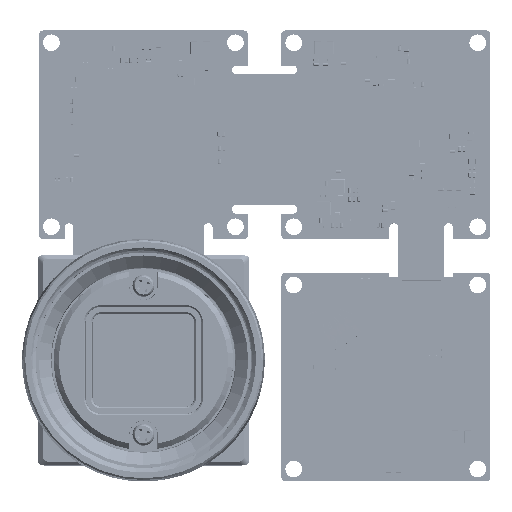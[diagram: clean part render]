
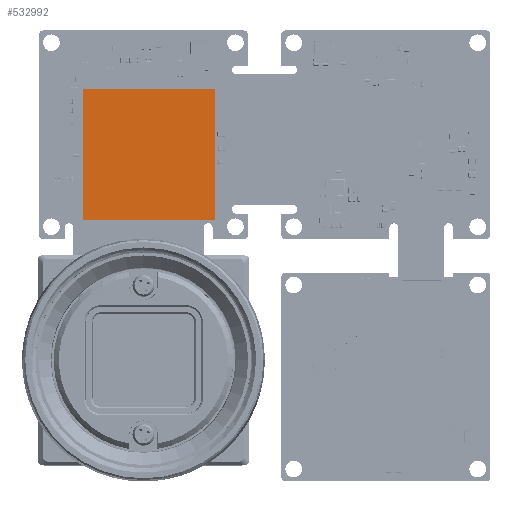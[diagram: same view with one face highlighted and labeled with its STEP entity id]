
A CAD part, top view. The second image highlights one B-rep face of the part: STEP entity #532992.
In plain terms, the highlighted planar face has unit normal (0, 0, 1).
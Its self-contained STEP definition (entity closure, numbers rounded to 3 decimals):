
#21036 = CARTESIAN_POINT ( 'NONE',  ( 8.16, 15.999, -0.75 ) ) ;
#66316 = CARTESIAN_POINT ( 'NONE',  ( -6.84, 30.999, -0.75 ) ) ;
#87046 = LINE ( 'NONE', #250304, #156075 ) ;
#87837 = VECTOR ( 'NONE', #516733, 1000. ) ;
#88732 = CARTESIAN_POINT ( 'NONE',  ( 8.16, 30.999, -0.75 ) ) ;
#92803 = EDGE_CURVE ( 'NONE', #147127, #311809, #348524, .T. ) ;
#97193 = PLANE ( 'NONE',  #534380 ) ;
#97307 = EDGE_LOOP ( 'NONE', ( #597156, #629134, #210142, #210082 ) ) ;
#147127 = VERTEX_POINT ( 'NONE', #474945 ) ;
#156075 = VECTOR ( 'NONE', #258708, 1000. ) ;
#168576 = VECTOR ( 'NONE', #555271, 1000. ) ;
#175540 = VERTEX_POINT ( 'NONE', #88732 ) ;
#197942 = CARTESIAN_POINT ( 'NONE',  ( 8.16, 30.999, -0.75 ) ) ;
#210082 = ORIENTED_EDGE ( 'NONE', *, *, #629654, .T. ) ;
#210142 = ORIENTED_EDGE ( 'NONE', *, *, #92803, .T. ) ;
#245426 = EDGE_CURVE ( 'NONE', #175540, #450920, #336816, .T. ) ;
#250304 = CARTESIAN_POINT ( 'NONE',  ( 8.16, 15.999, -0.75 ) ) ;
#258708 = DIRECTION ( 'NONE',  ( 0., 1., 0. ) ) ;
#261352 = DIRECTION ( 'NONE',  ( 0., -1., 0. ) ) ;
#290130 = DIRECTION ( 'NONE',  ( 0., -1., 0. ) ) ;
#292226 = CARTESIAN_POINT ( 'NONE',  ( 8.16, 15.999, -0.75 ) ) ;
#311809 = VERTEX_POINT ( 'NONE', #21036 ) ;
#336816 = LINE ( 'NONE', #197942, #168576 ) ;
#348524 = LINE ( 'NONE', #615202, #87837 ) ;
#353288 = CARTESIAN_POINT ( 'NONE',  ( -6.84, 30.999, -0.75 ) ) ;
#357492 = VECTOR ( 'NONE', #261352, 1000. ) ;
#450920 = VERTEX_POINT ( 'NONE', #353288 ) ;
#474945 = CARTESIAN_POINT ( 'NONE',  ( -6.84, 15.999, -0.75 ) ) ;
#492175 = FACE_OUTER_BOUND ( 'NONE', #97307, .T. ) ;
#503096 = LINE ( 'NONE', #66316, #357492 ) ;
#516733 = DIRECTION ( 'NONE',  ( 1., 0., 0. ) ) ;
#532992 = ADVANCED_FACE ( 'NONE', ( #492175 ), #97193, .F. ) ;
#534380 = AXIS2_PLACEMENT_3D ( 'NONE', #292226, #632523, #290130 ) ;
#555271 = DIRECTION ( 'NONE',  ( -1., 0., 0. ) ) ;
#597156 = ORIENTED_EDGE ( 'NONE', *, *, #245426, .T. ) ;
#615202 = CARTESIAN_POINT ( 'NONE',  ( -6.84, 15.999, -0.75 ) ) ;
#627633 = EDGE_CURVE ( 'NONE', #450920, #147127, #503096, .T. ) ;
#629134 = ORIENTED_EDGE ( 'NONE', *, *, #627633, .T. ) ;
#629654 = EDGE_CURVE ( 'NONE', #311809, #175540, #87046, .T. ) ;
#632523 = DIRECTION ( 'NONE',  ( 0., 0., -1. ) ) ;
